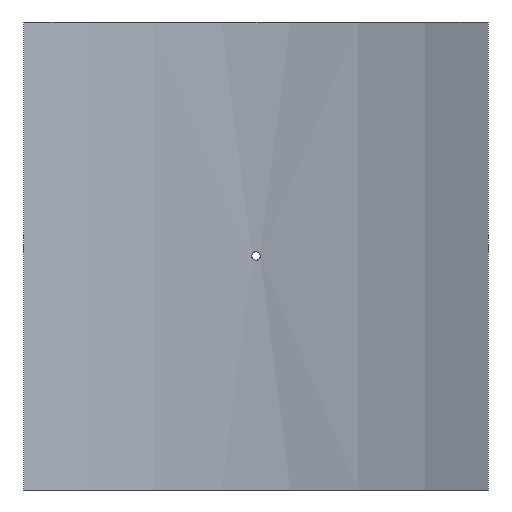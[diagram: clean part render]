
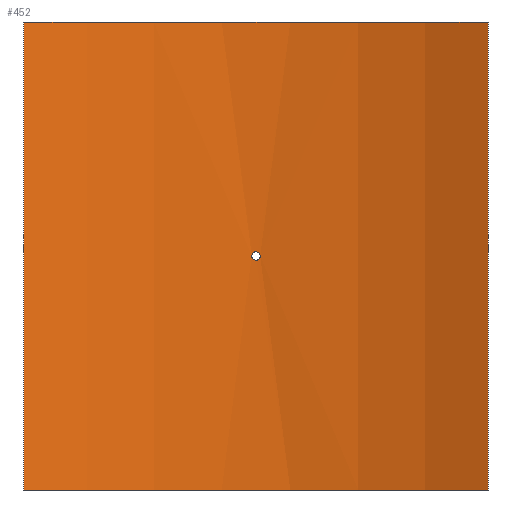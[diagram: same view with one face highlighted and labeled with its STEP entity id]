
A CAD part, front view. The second image highlights one B-rep face of the part: STEP entity #452.
In plain terms, the highlighted cylindrical face has radius 600 mm (diameter 1200 mm), a partial arc.
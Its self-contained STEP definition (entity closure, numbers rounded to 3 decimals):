
#19=B_SPLINE_CURVE_WITH_KNOTS('',3,(#788,#789,#790,#791,#792,#793,#794,
#795,#796,#797,#798,#799,#800,#801,#802,#803,#804,#805,#806,#807,#808,#809,
#810,#811,#812,#813,#814,#815,#816,#817,#818,#819,#820,#821),
 .UNSPECIFIED.,.T.,.F.,(4,2,2,2,2,2,2,2,2,2,2,2,2,2,2,2,4),(0.,0.181,
0.362,0.542,0.723,0.904,
1.085,1.266,1.446,1.627,1.808,
1.989,2.17,2.351,2.531,2.712,
2.893),.UNSPECIFIED.);
#43=LINE('',#1065,#62);
#44=LINE('',#1068,#63);
#62=VECTOR('',#661,10.);
#63=VECTOR('',#664,10.);
#76=CYLINDRICAL_SURFACE('',#530,600.);
#88=FACE_BOUND('',#167,.T.);
#127=FACE_OUTER_BOUND('',#166,.T.);
#166=EDGE_LOOP('',(#405,#406,#407,#408));
#167=EDGE_LOOP('',(#409));
#201=CIRCLE('',#529,600.);
#202=CIRCLE('',#531,600.);
#219=VERTEX_POINT('',#786);
#242=VERTEX_POINT('',#1058);
#243=VERTEX_POINT('',#1060);
#244=VERTEX_POINT('',#1064);
#245=VERTEX_POINT('',#1066);
#267=EDGE_CURVE('',#219,#219,#19,.T.);
#299=EDGE_CURVE('',#242,#243,#201,.T.);
#301=EDGE_CURVE('',#244,#242,#43,.T.);
#302=EDGE_CURVE('',#245,#244,#202,.T.);
#303=EDGE_CURVE('',#245,#243,#44,.T.);
#405=ORIENTED_EDGE('',*,*,#301,.F.);
#406=ORIENTED_EDGE('',*,*,#302,.F.);
#407=ORIENTED_EDGE('',*,*,#303,.T.);
#408=ORIENTED_EDGE('',*,*,#299,.F.);
#409=ORIENTED_EDGE('',*,*,#267,.T.);
#452=ADVANCED_FACE('',(#127,#88),#76,.F.);
#529=AXIS2_PLACEMENT_3D('',#1061,#656,#657);
#530=AXIS2_PLACEMENT_3D('',#1063,#659,#660);
#531=AXIS2_PLACEMENT_3D('',#1067,#662,#663);
#656=DIRECTION('center_axis',(0.,0.,1.));
#657=DIRECTION('ref_axis',(0.438,0.899,0.));
#659=DIRECTION('center_axis',(0.,0.,1.));
#660=DIRECTION('ref_axis',(0.438,0.899,0.));
#661=DIRECTION('',(0.,0.,-1.));
#662=DIRECTION('center_axis',(0.,0.,-1.));
#663=DIRECTION('ref_axis',(0.438,0.899,0.));
#664=DIRECTION('',(0.,0.,-1.));
#786=CARTESIAN_POINT('',(4.8,599.981,0.));
#788=CARTESIAN_POINT('Ctrl Pts',(4.8,599.981,0.));
#789=CARTESIAN_POINT('Ctrl Pts',(4.8,599.981,-0.603));
#790=CARTESIAN_POINT('Ctrl Pts',(4.68,599.982,-1.246));
#791=CARTESIAN_POINT('Ctrl Pts',(4.19,599.985,-2.428));
#792=CARTESIAN_POINT('Ctrl Pts',(3.82,599.988,-2.968));
#793=CARTESIAN_POINT('Ctrl Pts',(2.968,599.993,-3.82));
#794=CARTESIAN_POINT('Ctrl Pts',(2.428,599.995,-4.19));
#795=CARTESIAN_POINT('Ctrl Pts',(1.246,599.999,-4.68));
#796=CARTESIAN_POINT('Ctrl Pts',(0.603,600.,-4.8));
#797=CARTESIAN_POINT('Ctrl Pts',(-0.603,600.,-4.8));
#798=CARTESIAN_POINT('Ctrl Pts',(-1.246,599.999,-4.68));
#799=CARTESIAN_POINT('Ctrl Pts',(-2.428,599.995,-4.19));
#800=CARTESIAN_POINT('Ctrl Pts',(-2.968,599.993,-3.82));
#801=CARTESIAN_POINT('Ctrl Pts',(-3.82,599.988,-2.968));
#802=CARTESIAN_POINT('Ctrl Pts',(-4.19,599.985,-2.428));
#803=CARTESIAN_POINT('Ctrl Pts',(-4.68,599.982,-1.246));
#804=CARTESIAN_POINT('Ctrl Pts',(-4.8,599.981,-0.603));
#805=CARTESIAN_POINT('Ctrl Pts',(-4.8,599.981,0.603));
#806=CARTESIAN_POINT('Ctrl Pts',(-4.68,599.982,1.246));
#807=CARTESIAN_POINT('Ctrl Pts',(-4.19,599.985,2.428));
#808=CARTESIAN_POINT('Ctrl Pts',(-3.82,599.988,2.968));
#809=CARTESIAN_POINT('Ctrl Pts',(-2.968,599.993,3.82));
#810=CARTESIAN_POINT('Ctrl Pts',(-2.428,599.995,4.19));
#811=CARTESIAN_POINT('Ctrl Pts',(-1.246,599.999,4.68));
#812=CARTESIAN_POINT('Ctrl Pts',(-0.603,600.,4.8));
#813=CARTESIAN_POINT('Ctrl Pts',(0.603,600.,4.8));
#814=CARTESIAN_POINT('Ctrl Pts',(1.246,599.999,4.68));
#815=CARTESIAN_POINT('Ctrl Pts',(2.428,599.995,4.19));
#816=CARTESIAN_POINT('Ctrl Pts',(2.968,599.993,3.82));
#817=CARTESIAN_POINT('Ctrl Pts',(3.82,599.988,2.968));
#818=CARTESIAN_POINT('Ctrl Pts',(4.19,599.985,2.428));
#819=CARTESIAN_POINT('Ctrl Pts',(4.68,599.982,1.246));
#820=CARTESIAN_POINT('Ctrl Pts',(4.8,599.981,0.603));
#821=CARTESIAN_POINT('Ctrl Pts',(4.8,599.981,0.));
#1058=CARTESIAN_POINT('',(263.,539.287,-265.));
#1060=CARTESIAN_POINT('',(-263.,539.287,-265.));
#1061=CARTESIAN_POINT('Origin',(0.,0.,
-265.));
#1063=CARTESIAN_POINT('Origin',(0.,0.,
0.));
#1064=CARTESIAN_POINT('',(263.,539.287,265.));
#1065=CARTESIAN_POINT('',(263.,539.287,0.));
#1066=CARTESIAN_POINT('',(-263.,539.287,265.));
#1067=CARTESIAN_POINT('Origin',(0.,0.,
265.));
#1068=CARTESIAN_POINT('',(-263.,539.287,0.));
